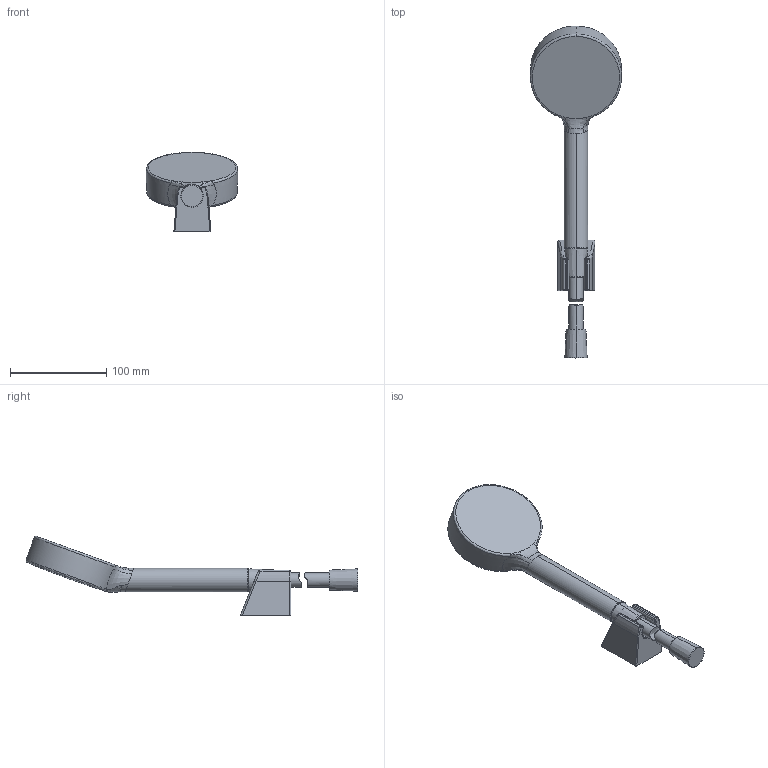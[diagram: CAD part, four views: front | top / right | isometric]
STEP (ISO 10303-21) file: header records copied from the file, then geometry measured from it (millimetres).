
FILE_DESCRIPTION (( 'STEP AP203' ), '1' );
FILE_NAME ('533-33(2020).STEP', '2020-12-04T06:21:19', ( '' ), ( '' ), 'SwSTEP 2.0', 'SolidWorks 2016', '' );
FILE_SCHEMA (( 'CONFIG_CONTROL_DESIGN' ));
Length unit declared in the file: millimetre
Products named in the file (1): 533-33(2020)
Bounding box: 94.96 x 345.64 x 82.76 mm (x, y, z)
Volume: 367359.7 mm3; surface area: 52097.6 mm2
Topology: 4 solids, 4 shells, 106 faces, 254 edges, 155 vertices
Faces by surface type: cylinder 31, bspline 26, torus 23, plane 16, cone 6, sphere 4
Entity records: 9358 total; most frequent: CARTESIAN_POINT 7086, ORIENTED_EDGE 496, DIRECTION 404, EDGE_CURVE 248, AXIS2_PLACEMENT_3D 173, VERTEX_POINT 153, EDGE_LOOP 109, FACE_OUTER_BOUND 106
